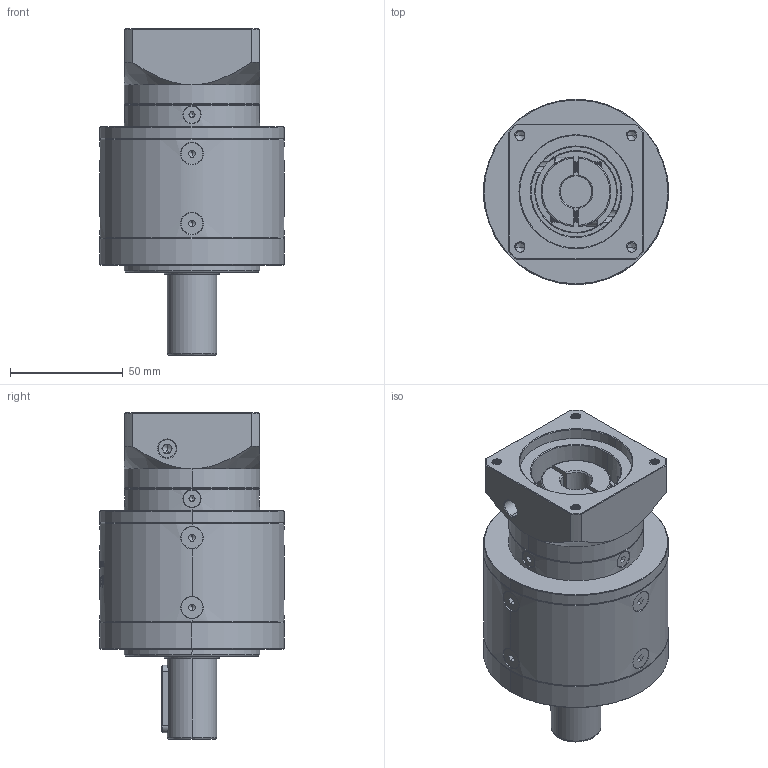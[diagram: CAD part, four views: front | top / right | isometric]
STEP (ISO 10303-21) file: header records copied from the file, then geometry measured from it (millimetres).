
FILE_DESCRIPTION (( 'STEP AP214' ), '1' );
FILE_NAME ('ZE80-D22-L2-14-50-70-M5.step', '2022-05-08T06:03:17', ( '' ), ( 'Microsoft' ), 'SwSTEP 2.0', 'SolidWorks 2016', '' );
FILE_SCHEMA (( 'AUTOMOTIVE_DESIGN' ));
Length unit declared in the file: millimetre
Products named in the file (1): ZE80-D22-L2-14-50-70-M5
Bounding box: 82 x 82 x 145 mm (x, y, z)
Volume: 445301.4 mm3; surface area: 64650.3 mm2
Topology: 18 solids, 18 shells, 2126 faces, 5589 edges, 3554 vertices
Faces by surface type: plane 943, cylinder 517, bspline 340, cone 312, torus 14
Entity records: 121587 total; most frequent: CARTESIAN_POINT 49989, ORIENTED_EDGE 11086, DIRECTION 8615, EDGE_CURVE 5543, VERTEX_POINT 3554, VECTOR 2961, LINE 2961, AXIS2_PLACEMENT_3D 2827
